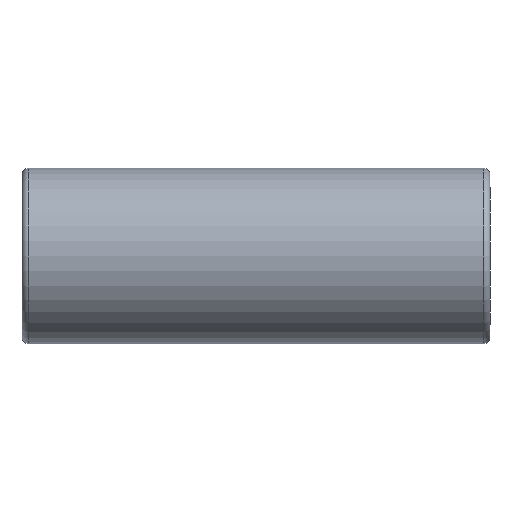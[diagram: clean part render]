
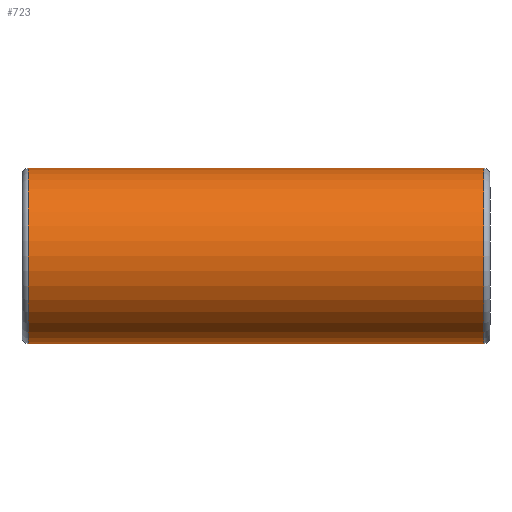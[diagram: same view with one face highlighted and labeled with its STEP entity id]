
A CAD part, front view. The second image highlights one B-rep face of the part: STEP entity #723.
In plain terms, the highlighted cylindrical face has radius 14.425 mm (diameter 28.85 mm), a partial arc.
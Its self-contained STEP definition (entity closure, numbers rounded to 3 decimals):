
#47 = VECTOR ( 'NONE', #1856, 1000. ) ;
#113 = VECTOR ( 'NONE', #164, 1000. ) ;
#164 = DIRECTION ( 'NONE',  ( 1., 0., 0. ) ) ;
#210 = CARTESIAN_POINT ( 'NONE',  ( 0., 0., 0. ) ) ;
#297 = CARTESIAN_POINT ( 'NONE',  ( -76., 0., -14.425 ) ) ;
#323 = CARTESIAN_POINT ( 'NONE',  ( -76., 0., 0. ) ) ;
#354 = DIRECTION ( 'NONE',  ( 0., 0., -1. ) ) ;
#391 = CIRCLE ( 'NONE', #574, 14.425 ) ;
#407 = DIRECTION ( 'NONE',  ( 1., 0., 0. ) ) ;
#503 = EDGE_CURVE ( 'NONE', #1984, #647, #391, .T. ) ;
#536 = VERTEX_POINT ( 'NONE', #1857 ) ;
#574 = AXIS2_PLACEMENT_3D ( 'NONE', #323, #1690, #1732 ) ;
#647 = VERTEX_POINT ( 'NONE', #297 ) ;
#656 = CARTESIAN_POINT ( 'NONE',  ( -1., 0., 14.425 ) ) ;
#690 = CARTESIAN_POINT ( 'NONE',  ( -76., 0., 14.425 ) ) ;
#695 = CYLINDRICAL_SURFACE ( 'NONE', #959, 14.425 ) ;
#702 = DIRECTION ( 'NONE',  ( 1., 0., 0. ) ) ;
#723 = ADVANCED_FACE ( 'NONE', ( #741 ), #695, .T. ) ;
#741 = FACE_OUTER_BOUND ( 'NONE', #2010, .T. ) ;
#829 = VERTEX_POINT ( 'NONE', #656 ) ;
#831 = CARTESIAN_POINT ( 'NONE',  ( 0., 0., 14.425 ) ) ;
#948 = CIRCLE ( 'NONE', #2062, 14.425 ) ;
#959 = AXIS2_PLACEMENT_3D ( 'NONE', #210, #407, #1793 ) ;
#963 = ORIENTED_EDGE ( 'NONE', *, *, #1565, .F. ) ;
#991 = CARTESIAN_POINT ( 'NONE',  ( 0., 0., -14.425 ) ) ;
#998 = LINE ( 'NONE', #831, #47 ) ;
#1016 = ORIENTED_EDGE ( 'NONE', *, *, #503, .T. ) ;
#1040 = ORIENTED_EDGE ( 'NONE', *, *, #1523, .T. ) ;
#1096 = EDGE_CURVE ( 'NONE', #829, #536, #948, .T. ) ;
#1523 = EDGE_CURVE ( 'NONE', #647, #536, #1812, .T. ) ;
#1565 = EDGE_CURVE ( 'NONE', #1984, #829, #998, .T. ) ;
#1687 = ORIENTED_EDGE ( 'NONE', *, *, #1096, .F. ) ;
#1690 = DIRECTION ( 'NONE',  ( 1., 0., 0. ) ) ;
#1732 = DIRECTION ( 'NONE',  ( 0., 0., -1. ) ) ;
#1793 = DIRECTION ( 'NONE',  ( 0., 0., -1. ) ) ;
#1812 = LINE ( 'NONE', #991, #113 ) ;
#1856 = DIRECTION ( 'NONE',  ( 1., 0., 0. ) ) ;
#1857 = CARTESIAN_POINT ( 'NONE',  ( -1., 0., -14.425 ) ) ;
#1971 = CARTESIAN_POINT ( 'NONE',  ( -1., 0., 0. ) ) ;
#1984 = VERTEX_POINT ( 'NONE', #690 ) ;
#2010 = EDGE_LOOP ( 'NONE', ( #963, #1016, #1040, #1687 ) ) ;
#2062 = AXIS2_PLACEMENT_3D ( 'NONE', #1971, #702, #354 ) ;
